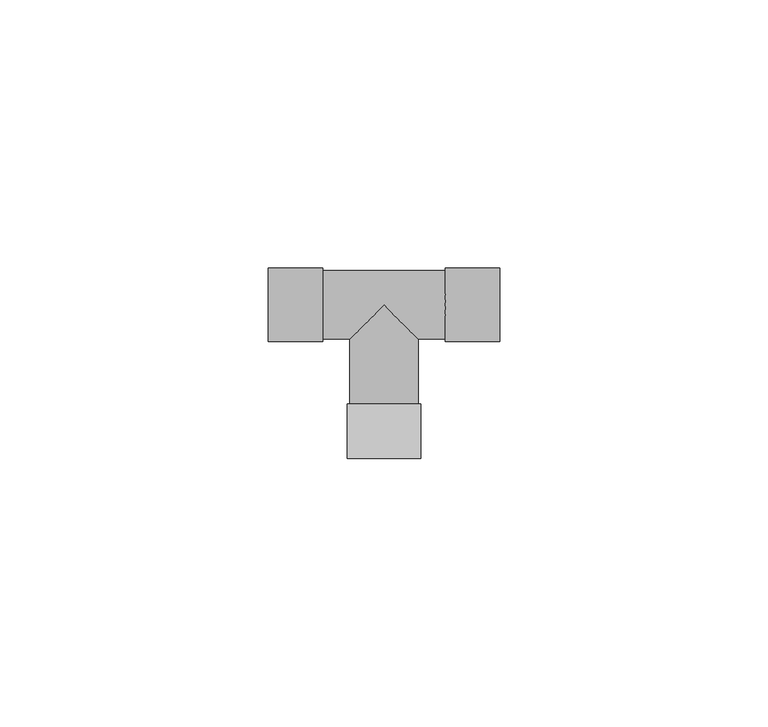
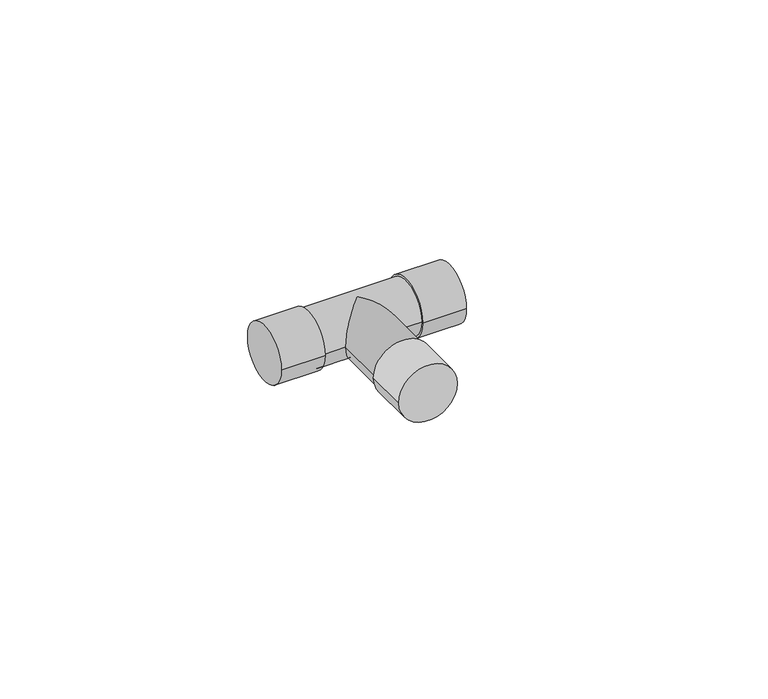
"""IFC4 building model written with IfcOpenShell, lengths in millimetres: pipe fitting geometry, Tê - Soldado - CU : Padrão."""

from ifc_helpers import new_model, si_unit, frame, origin, place, context, project, spatial, circle_curve, ellipse_curve, source, transform, mapped, element, save
from ifc_brep_helpers import plane_surface, cylinder_surface, advanced_brep


def pipe_fitting_f84f6400(model_context):
    return source(origin(), model_context, "Body", "AdvancedBrep", [
        advanced_brep(
        [(6.8475656, -28.7058651, 0.0), (-6.8464344, -28.7061349, 0.0), (6.847365, -18.5268651, 0.0), (-6.846635, -18.5271349, 0.0), (6.350365, -18.5268749, 0.0), (-6.349635, -18.5271251, 0.0), (-21.5775, -6.847, 0.0), (-21.5775, 6.847, 0.0), (-11.3985, -6.847, 0.0), (-11.3985, 6.847, 0.0), (-11.3985, -6.35, 0.0), (-11.3985, 6.35, 0.0), (11.3985, 6.35, 0.0), (-6.3498749, -6.35, 0.0), (0.0, 0.0, 6.35), (6.3501251, -6.35, 0.0), (11.3985, -6.35, 0.0), (0.0, 0.0, -6.35), (11.3985, -6.847, 0.0), (11.3985, 6.847, 0.0), (21.5775, -6.847, 0.0), (21.5775, 6.847, 0.0)],
        [
            (0, 1, circle_curve(frame((0.0005656, -28.706, 0.0), z_axis=(1.9702587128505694e-05, -0.999999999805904, 0.0), x_axis=(-0.999999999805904, -1.9702587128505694e-05, 0.0)), 6.847)),
            (1, 0, circle_curve(frame((0.0005656, -28.706, 0.0), z_axis=(1.9702587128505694e-05, -0.999999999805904, 0.0), x_axis=(-0.999999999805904, -1.9702587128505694e-05, 0.0)), 6.847)),
            (2, 3, circle_curve(frame((0.000365, -18.527, 0.0), z_axis=(-1.9702587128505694e-05, 0.999999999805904, 0.0), x_axis=(-0.999999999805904, -1.9702587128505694e-05, 0.0)), 6.847)),
            (3, 2, circle_curve(frame((0.000365, -18.527, 0.0), z_axis=(-1.9702587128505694e-05, 0.999999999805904, 0.0), x_axis=(-0.999999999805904, -1.9702587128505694e-05, 0.0)), 6.847)),
            (4, 5, circle_curve(frame((0.000365, -18.527, 0.0), z_axis=(1.9702587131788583e-05, -0.999999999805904, 0.0), x_axis=(0.999999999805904, 1.9702587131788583e-05, 0.0)), 6.35)),
            (5, 4, circle_curve(frame((0.000365, -18.527, 0.0), z_axis=(1.9702587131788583e-05, -0.999999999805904, 0.0), x_axis=(0.999999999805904, 1.9702587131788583e-05, 0.0)), 6.35)),
            (0, 2),
            (3, 1),
            (6, 7, circle_curve(frame((-21.5775, 0.0, 0.0), z_axis=(-1.0, 0.0, 0.0), x_axis=(0.0, 1.0, 0.0)), 6.847)),
            (7, 6, circle_curve(frame((-21.5775, 0.0, 0.0), z_axis=(-1.0, 0.0, 0.0), x_axis=(0.0, 1.0, 0.0)), 6.847)),
            (8, 9, circle_curve(frame((-11.3985, 0.0, 0.0), z_axis=(1.0, 0.0, 0.0), x_axis=(0.0, 1.0, 0.0)), 6.847)),
            (9, 8, circle_curve(frame((-11.3985, 0.0, 0.0), z_axis=(1.0, 0.0, 0.0), x_axis=(0.0, 1.0, 0.0)), 6.847)),
            (10, 11, circle_curve(frame((-11.3985, 0.0, 0.0), z_axis=(-1.0, 0.0, 0.0), x_axis=(0.0, 1.0, 0.0)), 6.35)),
            (11, 10, circle_curve(frame((-11.3985, 0.0, 0.0), z_axis=(-1.0, 0.0, 0.0), x_axis=(0.0, 1.0, 0.0)), 6.35)),
            (6, 8),
            (9, 7),
            (12, 11),
            (10, 13),
            (13, 14, ellipse_curve(frame((0.0, 0.0, 0.0), z_axis=(-0.707113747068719, 0.7070998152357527, 0.0), x_axis=(-0.7070998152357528, -0.707113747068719, 0.0)), 8.9801677, 6.35)),
            (14, 15, ellipse_curve(frame((0.0, 0.0, 0.0), z_axis=(0.7070998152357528, 0.707113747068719, 0.0), x_axis=(-0.707113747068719, 0.7070998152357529, 0.0)), 8.9803446, 6.35)),
            (15, 16),
            (16, 12, circle_curve(frame((11.3985, 0.0, 0.0), z_axis=(-1.0, 0.0, 0.0), x_axis=(0.0, 1.0, 0.0)), 6.35)),
            (12, 16, circle_curve(frame((11.3985, 0.0, 0.0), z_axis=(-1.0, 0.0, 0.0), x_axis=(0.0, 1.0, 0.0)), 6.35)),
            (15, 17, ellipse_curve(frame((0.0, 0.0, 0.0), z_axis=(0.7070998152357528, 0.707113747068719, 0.0), x_axis=(-0.707113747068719, 0.7070998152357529, 0.0)), 8.9803446, 6.35)),
            (17, 13, ellipse_curve(frame((0.0, 0.0, 0.0), z_axis=(-0.707113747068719, 0.7070998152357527, 0.0), x_axis=(-0.7070998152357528, -0.707113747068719, 0.0)), 8.9801677, 6.35)),
            (18, 19, circle_curve(frame((11.3985, 0.0, 0.0), z_axis=(-1.0, 0.0, 0.0), x_axis=(0.0, 1.0, 0.0)), 6.847)),
            (19, 18, circle_curve(frame((11.3985, 0.0, 0.0), z_axis=(-1.0, 0.0, 0.0), x_axis=(0.0, 1.0, 0.0)), 6.847)),
            (20, 21, circle_curve(frame((21.5775, 0.0, 0.0), z_axis=(1.0, 0.0, 0.0), x_axis=(0.0, 1.0, 0.0)), 6.847)),
            (21, 20, circle_curve(frame((21.5775, 0.0, 0.0), z_axis=(1.0, 0.0, 0.0), x_axis=(0.0, 1.0, 0.0)), 6.847)),
            (18, 20),
            (21, 19),
            (4, 15),
            (13, 5),
        ],
        [
            plane_surface(frame((0.0005656, -28.706, 0.0), z_axis=(1.9702587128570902e-05, -0.999999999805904, 0.0), x_axis=(0.0, 0.0, 1.0))),
            plane_surface(frame((0.000365, -18.527, 0.0), z_axis=(-1.9702587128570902e-05, 0.999999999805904, 0.0), x_axis=(0.0, 0.0, 1.0))),
            cylinder_surface(frame((0.0005656, -28.706, 0.0), z_axis=(1.9702587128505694e-05, -0.999999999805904, 0.0), x_axis=(-0.999999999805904, -1.9702587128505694e-05, 0.0)), 6.847),
            plane_surface(frame((-21.5775, 0.0, 0.0), z_axis=(-1.0, 0.0, 0.0), x_axis=(0.0, 0.0, 1.0))),
            plane_surface(frame((-11.3985, 0.0, 0.0), z_axis=(1.0, 0.0, 0.0), x_axis=(0.0, 0.0, 1.0))),
            cylinder_surface(frame((-21.5775, 0.0, 0.0), z_axis=(-1.0, 0.0, 0.0), x_axis=(0.0, 1.0, 0.0)), 6.847),
            cylinder_surface(frame((-11.3985, 0.0, 0.0), z_axis=(-1.0, 0.0, 0.0), x_axis=(0.0, 1.0, 0.0)), 6.35),
            plane_surface(frame((11.3985, 0.0, 0.0), z_axis=(-1.0, 0.0, 0.0), x_axis=(0.0, 0.0, 1.0))),
            plane_surface(frame((21.5775, 0.0, 0.0), z_axis=(1.0, 0.0, 0.0), x_axis=(0.0, 0.0, 1.0))),
            cylinder_surface(frame((11.3985, 0.0, 0.0), z_axis=(-1.0, 0.0, 0.0), x_axis=(0.0, 1.0, 0.0)), 6.847),
            cylinder_surface(frame((0.0, 0.0, 0.0), z_axis=(-1.9702587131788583e-05, 0.999999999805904, 0.0), x_axis=(0.999999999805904, 1.9702587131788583e-05, 0.0)), 6.35),
        ],
        [
            (0, [[1, 2]]),
            (1, [[3, 4], [5, 6]]),
            (2, [[-1, 7, -4, 8]]),
            (2, [[-2, -8, -3, -7]]),
            (3, [[9, 10]]),
            (4, [[11, 12], [13, 14]]),
            (5, [[-9, 15, -12, 16]]),
            (5, [[-10, -16, -11, -15]]),
            (6, [[17, -13, 18, 19, 20, 21, 22]]),
            (6, [[-17, 23, -21, 24, 25, -18, -14]]),
            (7, [[26, 27], [-22, -23]]),
            (8, [[28, 29]]),
            (9, [[-26, 30, -29, 31]]),
            (9, [[-27, -31, -28, -30]]),
            (10, [[32, -20, -19, 33, -5]]),
            (10, [[-32, -6, -33, -25, -24]]),
        ],
    ),
    ])


if __name__ == "__main__":
    model = new_model("IFC4")
    model_context = context("Model", 3, world=origin())
    ifc_project = project(units=[si_unit("LENGTHUNIT", "METRE", prefix="MILLI")], contexts=[model_context])
    site = spatial("IfcSite", under=ifc_project)
    building = spatial("IfcBuilding", under=site)
    placement = place(None, origin())
    pipe_fitting_shape = pipe_fitting_f84f6400(model_context)
    element("IfcPipeFitting", 1, ObjectType="Tê - Soldado - CU : Padrão", at=placement, inside=building, context=model_context, shape_type="MappedRepresentation", body=[
        mapped(pipe_fitting_shape, transform((0.0, 0.0, 0.0), x_axis=(1.0, 0.0, 0.0), y_axis=(0.0, 1.0, 0.0), z_axis=(0.0, 0.0, 1.0))),
    ])
    save(model, "model.ifc")
